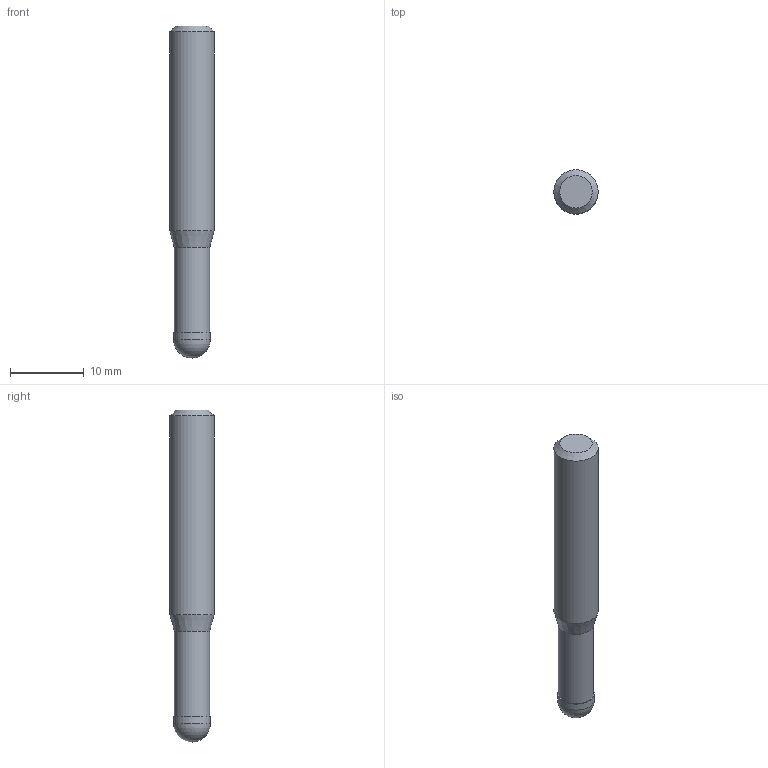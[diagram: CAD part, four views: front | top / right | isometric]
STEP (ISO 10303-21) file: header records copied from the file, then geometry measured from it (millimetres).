
FILE_DESCRIPTION((''),'2;1');
FILE_NAME('C:\Users\nsx150\AppData\Local\Temp\Mastercam 2021\QT8KEW0Y7J\TEMP.step','2021-04-23T11:22:04',(''),(''),'STEP Write','Mastercam 2021 ... CNC Software, Inc.','');
FILE_SCHEMA(('AUTOMOTIVE_DESIGN'));
Length unit declared in the file: millimetre
Products named in the file (1): None
Bounding box: 6 x 6 x 45 mm (x, y, z)
Volume: 1091.4 mm3; surface area: 847.3 mm2
Topology: 2 solids, 2 shells, 9 faces, 14 edges, 8 vertices
Faces by surface type: plane 3, cylinder 3, cone 2, sphere 1
Full cylindrical faces by diameter (mm): 4.8 x1, 5 x1, 6 x1
Entity records: 211 total; most frequent: DIRECTION 36, CARTESIAN_POINT 25, AXIS2_PLACEMENT_3D 18, ORIENTED_EDGE 14, EDGE_LOOP 14, STYLED_ITEM 12, ADVANCED_FACE 9, FACE_BOUND 8
